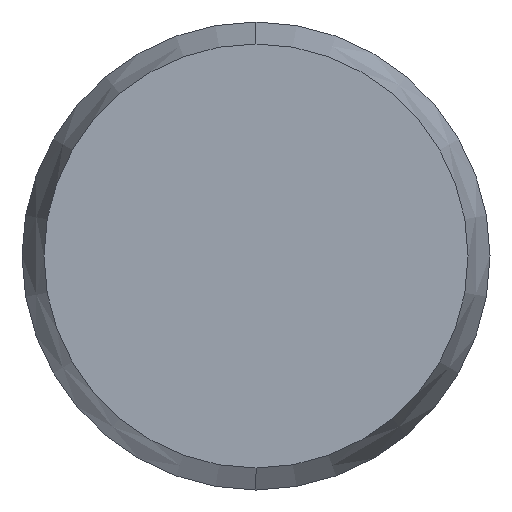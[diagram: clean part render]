
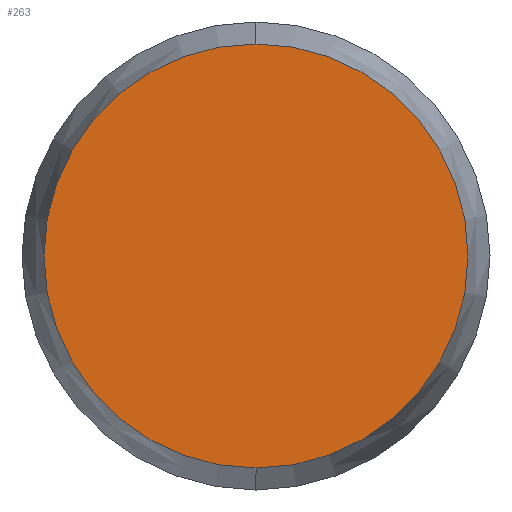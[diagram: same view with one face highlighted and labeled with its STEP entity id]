
A CAD part, left-side view. The second image highlights one B-rep face of the part: STEP entity #263.
In plain terms, the highlighted planar face has unit normal (-1, 0, 0).
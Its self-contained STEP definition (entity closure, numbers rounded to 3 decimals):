
#83 = DIRECTION ( 'NONE',  ( 0., 0., -1. ) ) ;
#84 = DIRECTION ( 'NONE',  ( 1., 0., 0. ) ) ;
#85 = CARTESIAN_POINT ( 'NONE',  ( -3., 0., 0. ) ) ;
#86 = AXIS2_PLACEMENT_3D ( 'NONE', #85, #84, #83 ) ;
#87 = CIRCLE ( 'NONE', #86, 1.812 ) ;
#155 = DIRECTION ( 'NONE',  ( 0., 0., -1. ) ) ;
#156 = DIRECTION ( 'NONE',  ( 1., 0., 0. ) ) ;
#157 = CARTESIAN_POINT ( 'NONE',  ( -3., 0., 0. ) ) ;
#158 = AXIS2_PLACEMENT_3D ( 'NONE', #157, #156, #155 ) ;
#159 = PLANE ( 'NONE',  #158 ) ;
#160 = FACE_OUTER_BOUND ( 'NONE', #273, .T. ) ;
#161 = DIRECTION ( 'NONE',  ( 0., 0., -1. ) ) ;
#162 = DIRECTION ( 'NONE',  ( 1., 0., 0. ) ) ;
#163 = CARTESIAN_POINT ( 'NONE',  ( -3., 0., 0. ) ) ;
#164 = AXIS2_PLACEMENT_3D ( 'NONE', #163, #162, #161 ) ;
#170 = CIRCLE ( 'NONE', #164, 1.812 ) ;
#187 = CARTESIAN_POINT ( 'NONE',  ( -3., 0., -1.812 ) ) ;
#188 = CARTESIAN_POINT ( 'NONE',  ( -3., 0., 1.812 ) ) ;
#205 = ORIENTED_EDGE ( 'NONE', *, *, #220, .F. ) ;
#207 = ORIENTED_EDGE ( 'NONE', *, *, #262, .F. ) ;
#220 = EDGE_CURVE ( 'NONE', #248, #247, #87, .T. ) ;
#247 = VERTEX_POINT ( 'NONE', #188 ) ;
#248 = VERTEX_POINT ( 'NONE', #187 ) ;
#262 = EDGE_CURVE ( 'NONE', #247, #248, #170, .T. ) ;
#263 = ADVANCED_FACE ( 'NONE', ( #160 ), #159, .F. ) ;
#273 = EDGE_LOOP ( 'NONE', ( #207, #205 ) ) ;
